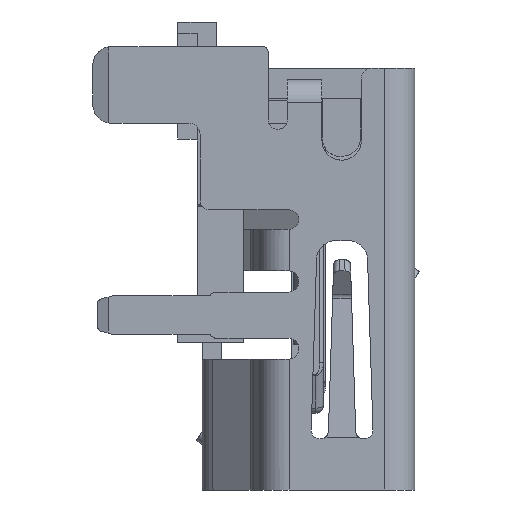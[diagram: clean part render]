
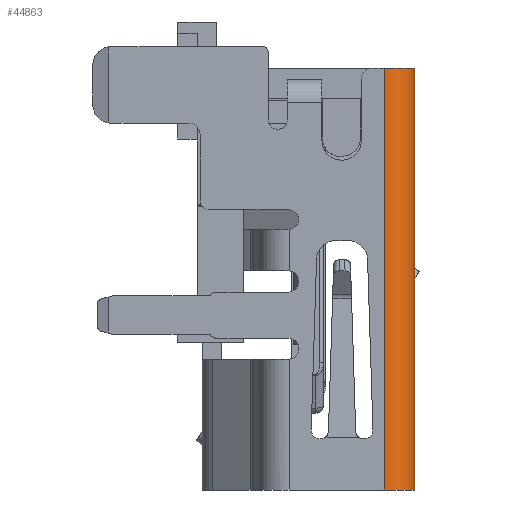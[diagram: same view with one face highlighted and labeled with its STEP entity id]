
A CAD part, left-side view. The second image highlights one B-rep face of the part: STEP entity #44863.
In plain terms, the highlighted cylindrical face has radius 0.8 mm (diameter 1.6 mm), a partial arc.
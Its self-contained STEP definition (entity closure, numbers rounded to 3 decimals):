
#1254 = CARTESIAN_POINT ( 'NONE',  ( -6.7, -2.675, 0.4 ) ) ;
#1325 = DIRECTION ( 'NONE',  ( -1., 0., 0. ) ) ;
#6948 = DIRECTION ( 'NONE',  ( 0., 0., 1. ) ) ;
#10337 = CARTESIAN_POINT ( 'NONE',  ( -6.7, -1.875, 11.4 ) ) ;
#11373 = CIRCLE ( 'NONE', #40062, 0.8 ) ;
#13270 = EDGE_CURVE ( 'NONE', #14839, #34143, #16228, .T. ) ;
#14839 = VERTEX_POINT ( 'NONE', #33866 ) ;
#16228 = CIRCLE ( 'NONE', #18490, 0.8 ) ;
#16784 = CARTESIAN_POINT ( 'NONE',  ( -6.7, -2.675, 11.4 ) ) ;
#18490 = AXIS2_PLACEMENT_3D ( 'NONE', #10337, #35386, #24046 ) ;
#19376 = ORIENTED_EDGE ( 'NONE', *, *, #46604, .T. ) ;
#20469 = CYLINDRICAL_SURFACE ( 'NONE', #43897, 0.8 ) ;
#21394 = EDGE_CURVE ( 'NONE', #14839, #30479, #27888, .T. ) ;
#21715 = ORIENTED_EDGE ( 'NONE', *, *, #21394, .F. ) ;
#22134 = VECTOR ( 'NONE', #41843, 1000. ) ;
#22596 = CARTESIAN_POINT ( 'NONE',  ( -7.5, -1.875, 0.4 ) ) ;
#22761 = ORIENTED_EDGE ( 'NONE', *, *, #13270, .T. ) ;
#23070 = DIRECTION ( 'NONE',  ( 0., 0., 1. ) ) ;
#24046 = DIRECTION ( 'NONE',  ( 0., -1., 0. ) ) ;
#27888 = LINE ( 'NONE', #16784, #22134 ) ;
#30479 = VERTEX_POINT ( 'NONE', #1254 ) ;
#31194 = ORIENTED_EDGE ( 'NONE', *, *, #45465, .T. ) ;
#31541 = DIRECTION ( 'NONE',  ( 0., 0., -1. ) ) ;
#31998 = CARTESIAN_POINT ( 'NONE',  ( -6.7, -1.875, 0.4 ) ) ;
#33866 = CARTESIAN_POINT ( 'NONE',  ( -6.7, -2.675, 11.4 ) ) ;
#34143 = VERTEX_POINT ( 'NONE', #39002 ) ;
#35386 = DIRECTION ( 'NONE',  ( 0., 0., -1. ) ) ;
#37102 = VECTOR ( 'NONE', #31541, 1000. ) ;
#37721 = FACE_OUTER_BOUND ( 'NONE', #46739, .T. ) ;
#38853 = DIRECTION ( 'NONE',  ( -1., 0., 0. ) ) ;
#39002 = CARTESIAN_POINT ( 'NONE',  ( -7.5, -1.875, 11.4 ) ) ;
#40062 = AXIS2_PLACEMENT_3D ( 'NONE', #31998, #6948, #38853 ) ;
#41843 = DIRECTION ( 'NONE',  ( 0., 0., -1. ) ) ;
#41983 = CARTESIAN_POINT ( 'NONE',  ( -6.7, -1.875, 0.209 ) ) ;
#43897 = AXIS2_PLACEMENT_3D ( 'NONE', #41983, #23070, #1325 ) ;
#44815 = VERTEX_POINT ( 'NONE', #22596 ) ;
#44863 = ADVANCED_FACE ( 'NONE', ( #37721 ), #20469, .T. ) ;
#45465 = EDGE_CURVE ( 'NONE', #44815, #30479, #11373, .T. ) ;
#46178 = LINE ( 'NONE', #46629, #37102 ) ;
#46604 = EDGE_CURVE ( 'NONE', #34143, #44815, #46178, .T. ) ;
#46629 = CARTESIAN_POINT ( 'NONE',  ( -7.5, -1.875, 11.4 ) ) ;
#46739 = EDGE_LOOP ( 'NONE', ( #31194, #21715, #22761, #19376 ) ) ;
